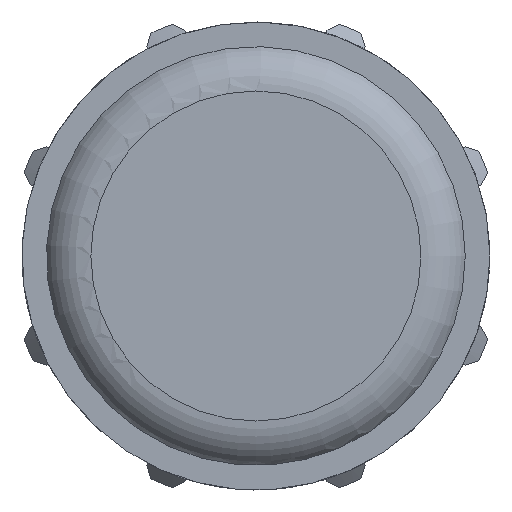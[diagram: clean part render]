
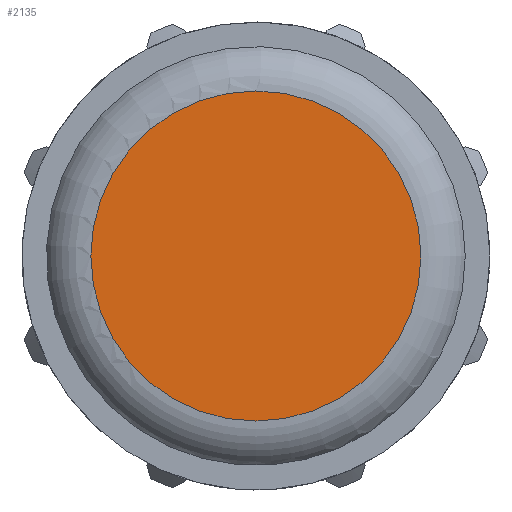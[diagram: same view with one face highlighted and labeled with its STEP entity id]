
A CAD part, left-side view. The second image highlights one B-rep face of the part: STEP entity #2135.
In plain terms, the highlighted planar face has unit normal (-1, 0, 0).
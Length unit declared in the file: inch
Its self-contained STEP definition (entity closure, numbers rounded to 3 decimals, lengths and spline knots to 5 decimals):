
#94=PLANE('',#2282);
#487=FACE_OUTER_BOUND('',#602,.T.);
#602=EDGE_LOOP('',(#1387));
#732=CIRCLE('',#2278,0.84428);
#841=VERTEX_POINT('',#3115);
#1058=EDGE_CURVE('',#841,#841,#732,.T.);
#1387=ORIENTED_EDGE('',*,*,#1058,.F.);
#2135=ADVANCED_FACE('',(#487),#94,.T.);
#2278=AXIS2_PLACEMENT_3D('',#3116,#2518,#2519);
#2282=AXIS2_PLACEMENT_3D('',#3122,#2526,#2527);
#2518=DIRECTION('center_axis',(1.,0.,0.));
#2519=DIRECTION('ref_axis',(0.,1.,0.));
#2526=DIRECTION('center_axis',(-1.,0.,0.));
#2527=DIRECTION('ref_axis',(0.,0.,1.));
#3115=CARTESIAN_POINT('',(0.,-0.84428,0.00036));
#3116=CARTESIAN_POINT('Origin',(0.,0.,0.));
#3122=CARTESIAN_POINT('Origin',(0.,1.071,0.));
